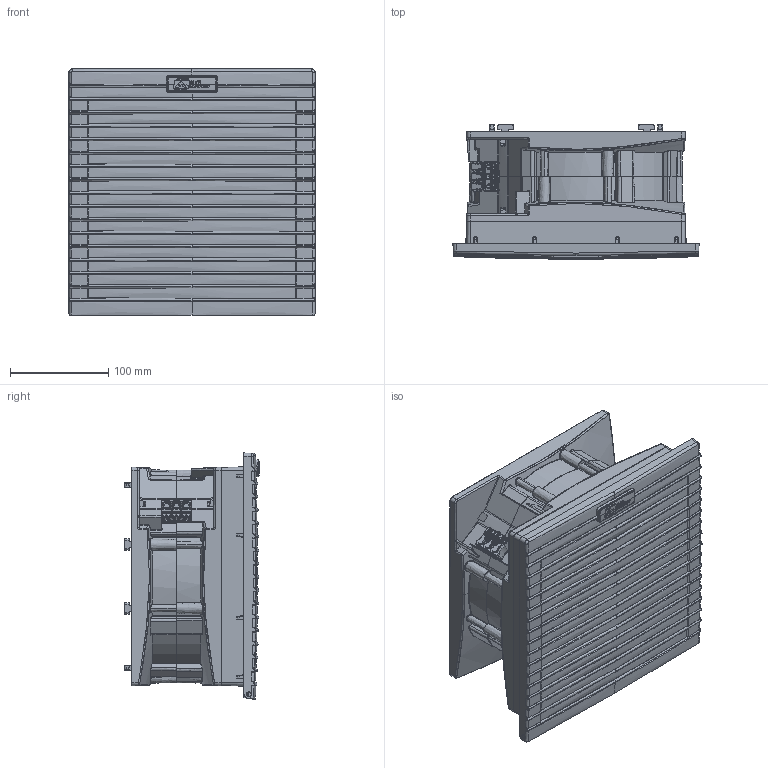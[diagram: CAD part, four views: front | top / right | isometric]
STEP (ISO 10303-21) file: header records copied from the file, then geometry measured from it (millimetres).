
FILE_DESCRIPTION(/* description */ (''),/* implementation_level */ '2;1');
FILE_NAME(/* name */ 'ATV440~1',/* time_stamp */ '2019-02-20T14:04:14+01:00',/* author */ (''),/* organization */ (''),/* preprocessor_version */ 'ST-DEVELOPER v16.5',/* originating_system */ '',/* authorisation */ '');
FILE_SCHEMA (('AUTOMOTIVE_DESIGN'));
Products named in the file (1): Document
Bounding box: 250 x 137.5 x 250 mm (x, y, z)
Surface area: 617747.1 mm2
Topology: 2 solids, 3208 shells, 4797 faces, 19990 edges, 18202 vertices
Faces by surface type: bspline 3498, plane 1299
Entity records: 397660 total; most frequent: CARTESIAN_POINT 270099, ORIENTED_EDGE 24021, EDGE_CURVE 19812, VERTEX_POINT 18211, B_SPLINE_CURVE_WITH_KNOTS 17173, EDGE_LOOP 4901, ADVANCED_FACE 4797, FACE_OUTER_BOUND 4797
